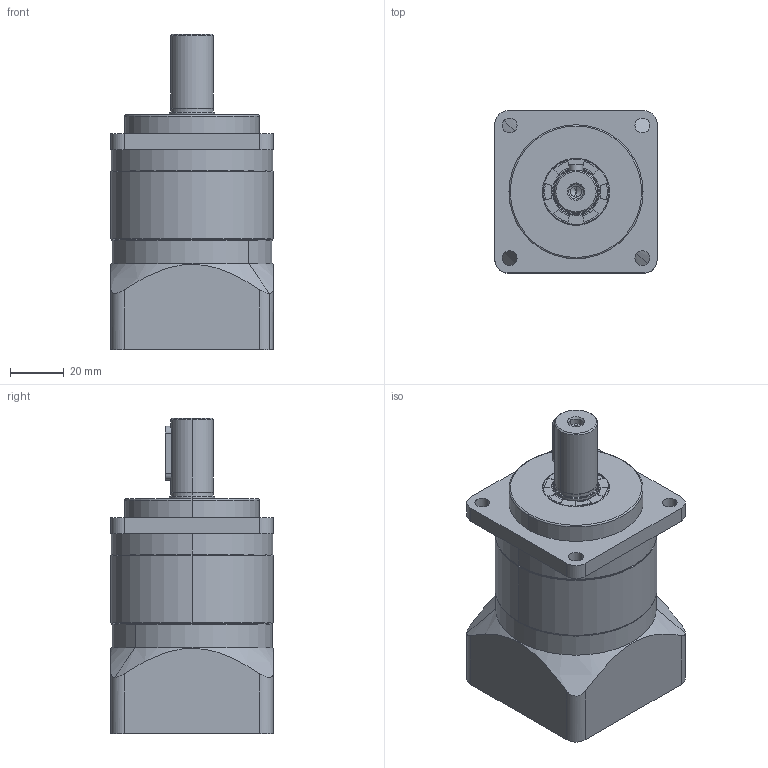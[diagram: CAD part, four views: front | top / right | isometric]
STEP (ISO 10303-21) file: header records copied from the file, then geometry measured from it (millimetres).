
FILE_DESCRIPTION (( 'STEP AP203' ), '1' );
FILE_NAME ('SA60-L1(8-30-46-M4).STEP', '2022-03-11T18:27:29', ( '' ), ( '' ), 'SwSTEP 2.0', 'SolidWorks 2016', '' );
FILE_SCHEMA (( 'CONFIG_CONTROL_DESIGN' ));
Length unit declared in the file: millimetre
Products named in the file (9): SN60-34x20x10.5-M5; SN60; SN60-(30-46-M4); SN60-17x25x4; 60-(o14-8x17); SN60-(14); SN60-(16x29-5x20); SA60-(50x7-70-5.5)-; SA60-L1(8-30-46-M4)
Assembly tree (8 placements, depth 2):
  SA60-L1(8-30-46-M4)
    SA60-(50x7-70-5.5)-
    SN60-17x25x4
    SN60-(16x29-5x20)
    SN60
    SN60-(30-46-M4)
    SN60-(14)
    SN60-34x20x10.5-M5
    60-(o14-8x17)
Bounding box: 60.5 x 60.5 x 117.6 mm (x, y, z)
Volume: 259774.6 mm3; surface area: 65954.7 mm2
Topology: 11 solids, 11 shells, 425 faces, 1075 edges, 680 vertices
Faces by surface type: cylinder 214, plane 110, cone 54, bspline 39, torus 8
Entity records: 32257 total; most frequent: CARTESIAN_POINT 21626, ORIENTED_EDGE 2114, DIRECTION 1945, EDGE_CURVE 1057, AXIS2_PLACEMENT_3D 764, VERTEX_POINT 680, EDGE_LOOP 493, ADVANCED_FACE 425
